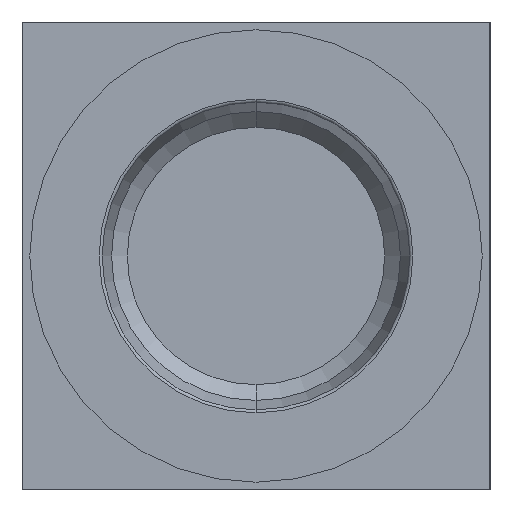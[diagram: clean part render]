
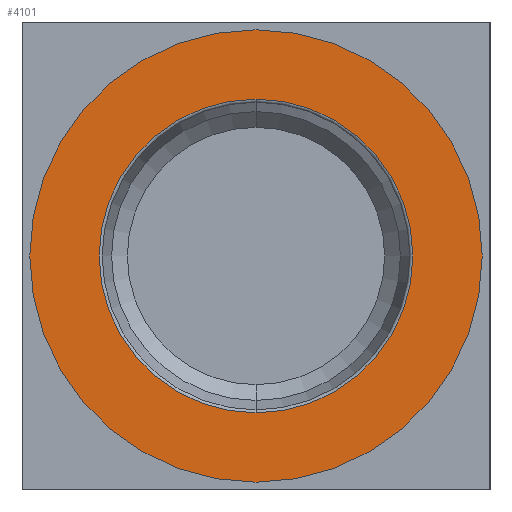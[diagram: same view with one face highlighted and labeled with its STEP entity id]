
A CAD part, left-side view. The second image highlights one B-rep face of the part: STEP entity #4101.
In plain terms, the highlighted planar face has unit normal (-1, 0, 0).
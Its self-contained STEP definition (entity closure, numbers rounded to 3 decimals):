
#299 = VERTEX_POINT ( 'NONE', #1790 ) ;
#1130 = AXIS2_PLACEMENT_3D ( 'NONE', #2236, #2291, #2347 ) ;
#1504 = CARTESIAN_POINT ( 'NONE',  ( 0.3, 15., -15. ) ) ;
#1552 = CIRCLE ( 'NONE', #10861, 10.053 ) ;
#1692 = DIRECTION ( 'NONE',  ( -1., 0., 0. ) ) ;
#1790 = CARTESIAN_POINT ( 'NONE',  ( 0.3, 15., -25.053 ) ) ;
#1859 = FACE_BOUND ( 'NONE', #10302, .T. ) ;
#1882 = PLANE ( 'NONE',  #1130 ) ;
#2075 = FACE_OUTER_BOUND ( 'NONE', #9772, .T. ) ;
#2236 = CARTESIAN_POINT ( 'NONE',  ( 0.3, 15., -29.5 ) ) ;
#2291 = DIRECTION ( 'NONE',  ( -1., 0., 0. ) ) ;
#2347 = DIRECTION ( 'NONE',  ( 0., 0., 1. ) ) ;
#3991 = ORIENTED_EDGE ( 'NONE', *, *, #5693, .T. ) ;
#4101 = ADVANCED_FACE ( 'NONE', ( #2075, #1859 ), #1882, .T. ) ;
#4532 = DIRECTION ( 'NONE',  ( 0., 0., 1. ) ) ;
#4930 = CARTESIAN_POINT ( 'NONE',  ( 0.3, 15., -0.5 ) ) ;
#5693 = EDGE_CURVE ( 'NONE', #7052, #8025, #11718, .T. ) ;
#5906 = CIRCLE ( 'NONE', #11366, 10.053 ) ;
#5976 = EDGE_CURVE ( 'NONE', #7815, #299, #5906, .T. ) ;
#6109 = CIRCLE ( 'NONE', #10875, 14.5 ) ;
#6415 = EDGE_CURVE ( 'NONE', #8025, #7052, #6109, .T. ) ;
#6419 = EDGE_CURVE ( 'NONE', #299, #7815, #1552, .T. ) ;
#6800 = ORIENTED_EDGE ( 'NONE', *, *, #6419, .F. ) ;
#7052 = VERTEX_POINT ( 'NONE', #11624 ) ;
#7288 = DIRECTION ( 'NONE',  ( -1., 0., 0. ) ) ;
#7698 = DIRECTION ( 'NONE',  ( -1., 0., 0. ) ) ;
#7815 = VERTEX_POINT ( 'NONE', #9457 ) ;
#7887 = CARTESIAN_POINT ( 'NONE',  ( 0.3, 15., -15. ) ) ;
#8025 = VERTEX_POINT ( 'NONE', #4930 ) ;
#8113 = DIRECTION ( 'NONE',  ( 0., 0., 1. ) ) ;
#8131 = DIRECTION ( 'NONE',  ( -1., 0., 0. ) ) ;
#8143 = CARTESIAN_POINT ( 'NONE',  ( 0.3, 15., -15. ) ) ;
#8552 = DIRECTION ( 'NONE',  ( 0., 0., 1. ) ) ;
#9000 = ORIENTED_EDGE ( 'NONE', *, *, #5976, .F. ) ;
#9457 = CARTESIAN_POINT ( 'NONE',  ( 0.3, 15., -4.947 ) ) ;
#9475 = CARTESIAN_POINT ( 'NONE',  ( 0.3, 15., -15. ) ) ;
#9618 = DIRECTION ( 'NONE',  ( 0., 0., 1. ) ) ;
#9772 = EDGE_LOOP ( 'NONE', ( #11903, #3991 ) ) ;
#10302 = EDGE_LOOP ( 'NONE', ( #9000, #6800 ) ) ;
#10861 = AXIS2_PLACEMENT_3D ( 'NONE', #1504, #1692, #9618 ) ;
#10875 = AXIS2_PLACEMENT_3D ( 'NONE', #9475, #7698, #8552 ) ;
#11366 = AXIS2_PLACEMENT_3D ( 'NONE', #8143, #8131, #8113 ) ;
#11624 = CARTESIAN_POINT ( 'NONE',  ( 0.3, 15., -29.5 ) ) ;
#11641 = AXIS2_PLACEMENT_3D ( 'NONE', #7887, #7288, #4532 ) ;
#11718 = CIRCLE ( 'NONE', #11641, 14.5 ) ;
#11903 = ORIENTED_EDGE ( 'NONE', *, *, #6415, .T. ) ;
